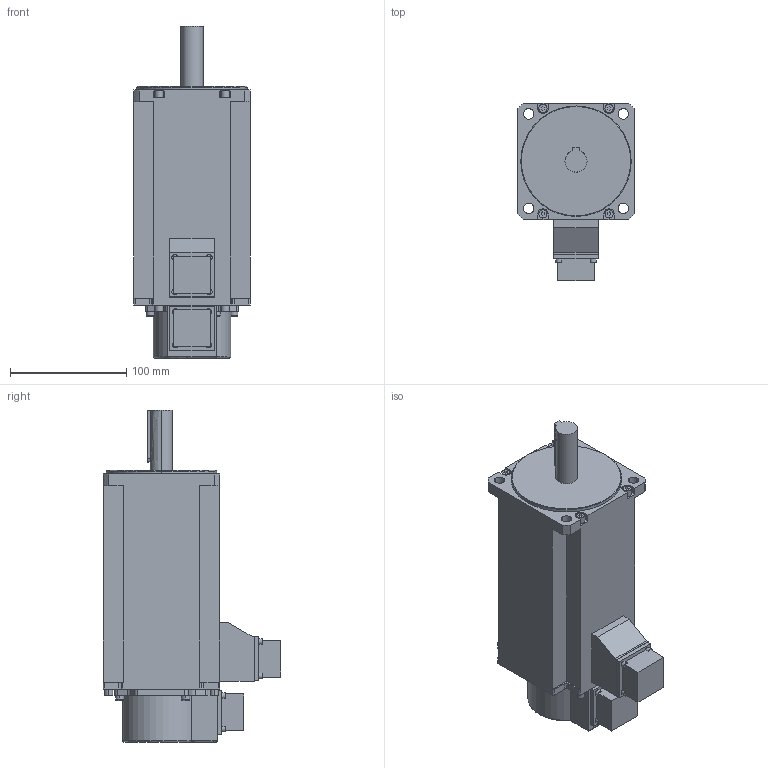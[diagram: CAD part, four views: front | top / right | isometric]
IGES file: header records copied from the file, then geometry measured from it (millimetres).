
Start section:  PTC IGES file: rsms_20atk3-070830.igs
Global section: file name: rsms_20atk3-070830.igs; native system: Pro/ENGINEER by Parametric Technology Corporation; preprocessor: 2004440; author: Administrator; organization: Unknown; date: 070830.160753; units: millimetre
Bounding box: 100 x 152.7 x 285.5 mm (x, y, z)
Volume: 1978215 mm3; surface area: 123714.5 mm2
Topology: 1 solids, 1 shells, 270 faces, 708 edges, 464 vertices
Faces by surface type: bspline 171, revolution 99
